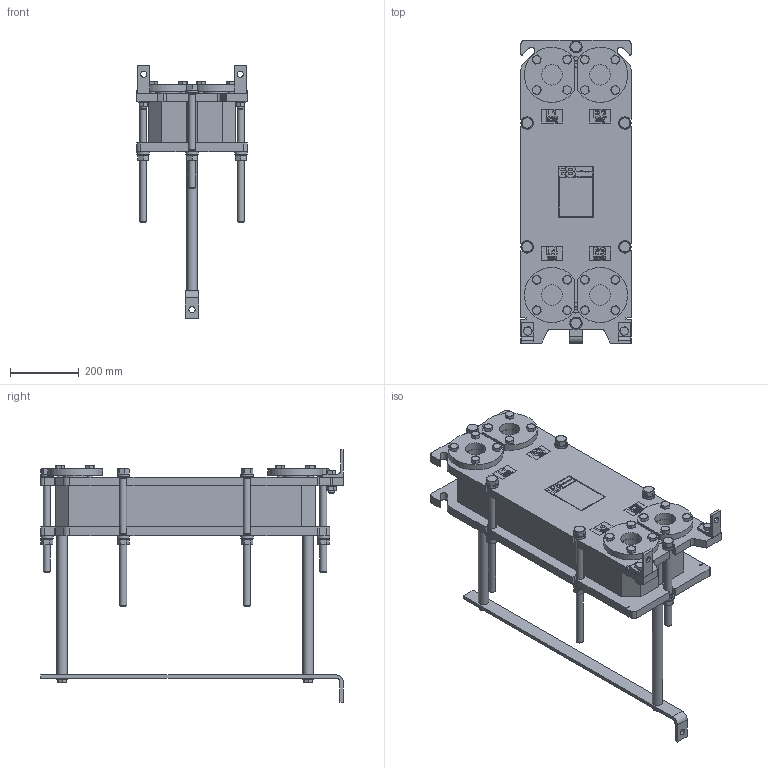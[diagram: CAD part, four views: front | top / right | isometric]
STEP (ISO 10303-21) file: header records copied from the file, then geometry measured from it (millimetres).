
FILE_DESCRIPTION (( 'STEP AP214' ), '1' );
FILE_NAME ('ÏÒ SX50 ðåä 4 ê ñèãìà 44...70.STEP', '2021-04-03T21:22:13', ( '' ), ( '' ), 'SwSTEP 2.0', 'SolidWorks 2018', '' );
FILE_SCHEMA (( 'AUTOMOTIVE_DESIGN' ));
Length unit declared in the file: millimetre
Products named in the file (3): ÏÒ SX50 ðåä 4 ê ñèãìà2 44...70; ÏÒ SX50 ðåä 4 ê ñèãìà 44...70; ÏÒ SX50 ðåä 4 ê ñèãìà1
Assembly tree (2 placements, depth 2):
  ÏÒ SX50 ðåä 4 ê ñèãìà 44...70
    ÏÒ SX50 ðåä 4 ê ñèãìà2 44...70
    ÏÒ SX50 ðåä 4 ê ñèãìà1
Bounding box: 320 x 880 x 735 mm (x, y, z)
Volume: 37576850.5 mm3; surface area: 2616092.4 mm2
Topology: 28 solids, 34 shells, 2016 faces, 4910 edges, 3141 vertices
Faces by surface type: plane 1036, cone 430, bspline 275, cylinder 241, torus 34
Full cylindrical faces by diameter (mm): 16 x44, 17 x4, 18 x25, 20 x12, 21 x12, 27 x12, 29.48 x2, 30 x8, 36 x12, 60 x8, 60.01 x4, 60.2 x4, 72.4 x4
Entity records: 89000 total; most frequent: CARTESIAN_POINT 23698, ORIENTED_EDGE 9012, DIRECTION 7808, EDGE_CURVE 4506, VERTEX_POINT 3052, AXIS2_PLACEMENT_3D 2706, EDGE_LOOP 2616, VECTOR 2396
